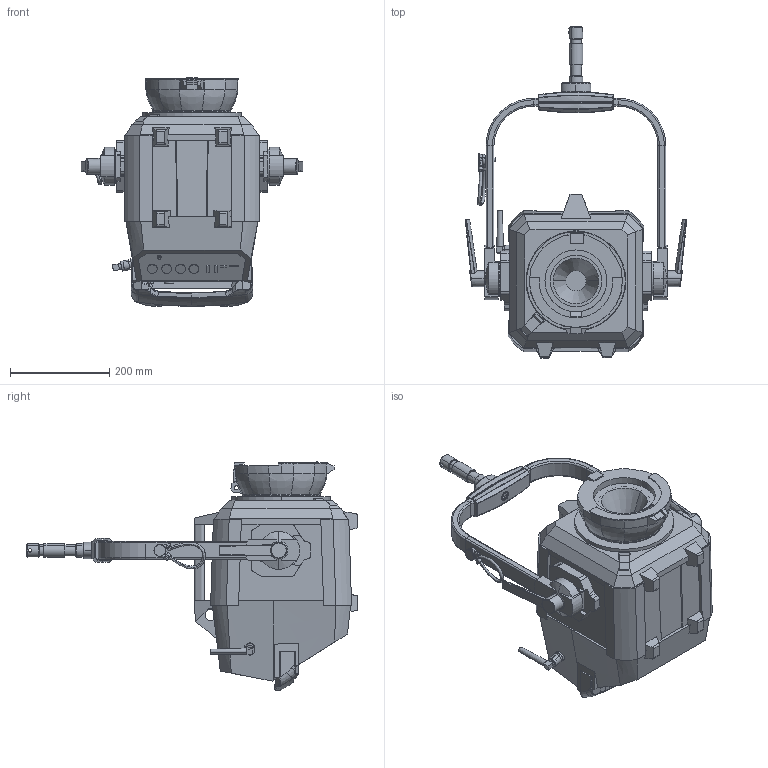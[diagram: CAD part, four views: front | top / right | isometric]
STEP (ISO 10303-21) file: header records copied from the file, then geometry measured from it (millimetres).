
FILE_DESCRIPTION (( 'STEP AP214' ), '1' );
FILE_NAME ('Orbiter 60°.STEP', '2020-04-30T12:34:19', ( '' ), ( '' ), 'SwSTEP 2.0', 'SolidWorks 2018', '' );
FILE_SCHEMA (( 'AUTOMOTIVE_DESIGN' ));
Length unit declared in the file: millimetre
Products named in the file (7): Orbiter 60ｰ; Antenne_import_part; OF60_update_Druckknopf; Orbiter_import_part_sw; Control_Panel_import_part; Haltebuegel_import_part; Set-Zapfen-lang-Doppelbuegel_import_part
Assembly tree (6 placements, depth 2):
  Orbiter 60ｰ
    Control_Panel_import_part
    Set-Zapfen-lang-Doppelbuegel_import_part
    Antenne_import_part
    Haltebuegel_import_part
    Orbiter_import_part_sw
    OF60_update_Druckknopf
Bounding box: 447.62 x 669.95 x 461.34 mm (x, y, z)
Volume: 18641177.8 mm3; surface area: 1283196.4 mm2
Topology: 6 solids, 8 shells, 1403 faces, 3689 edges, 2340 vertices
Faces by surface type: plane 666, cylinder 313, bspline 302, torus 53, cone 43, sphere 26
Entity records: 73502 total; most frequent: CARTESIAN_POINT 26023, ORIENTED_EDGE 7346, DIRECTION 5655, EDGE_CURVE 3673, VERTEX_POINT 2334, AXIS2_PLACEMENT_3D 1946, VECTOR 1763, LINE 1763
